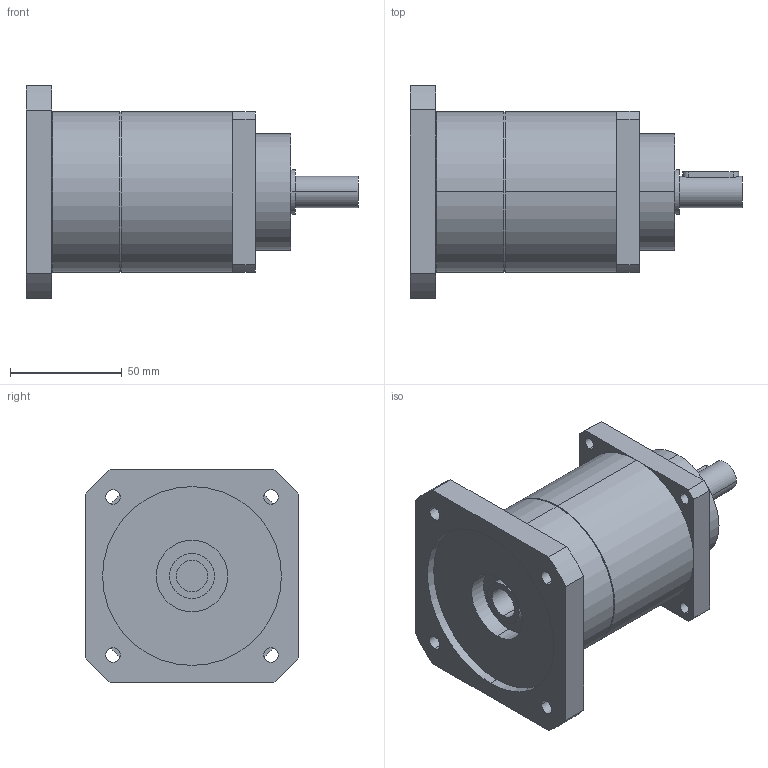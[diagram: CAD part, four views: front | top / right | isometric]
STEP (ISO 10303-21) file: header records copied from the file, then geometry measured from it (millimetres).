
FILE_DESCRIPTION(('CoCreate Modeling STEP Export'),'2;1');
FILE_NAME('GPT75_ig-9-12-16-20-25-28-35-40-50-70-100_14_B5T_14_P07.stp','2014-08-27T13:37:45',(''),(''),'CoCreate Modeling STEP processor for AP214 (Solid Model)','CoCreate Modeling 16.00C 25-Feb-2009 (C) Parametric Technology GmbH','');
FILE_SCHEMA(('AUTOMOTIVE_DESIGN { 1 0 10303 214 1 1 1 1 }'));
Length unit declared in the file: millimetre
Products named in the file (2): GPT75_ig-9-12-16-20-25-28-35-40-50-70-100_14_B5T_14_P07
Assembly tree (1 placements, depth 2):
  GPT75_ig-9-12-16-20-25-28-35-40-50-70-100_14_B5T_14_P07
    GPT75_ig-9-12-16-20-25-28-35-40-50-70-100_14_B5T_14_P07
Bounding box: 148.5 x 95 x 95 mm (x, y, z)
Volume: 489151.7 mm3; surface area: 54165.3 mm2
Topology: 1 solids, 1 shells, 77 faces, 190 edges, 125 vertices
Faces by surface type: cylinder 46, plane 27, cone 4
Entity records: 2464 total; most frequent: CARTESIAN_POINT 715, ORIENTED_EDGE 380, DIRECTION 320, EDGE_CURVE 190, VERTEX_POINT 125, AXIS2_PLACEMENT_3D 118, EDGE_LOOP 103, VECTOR 84
